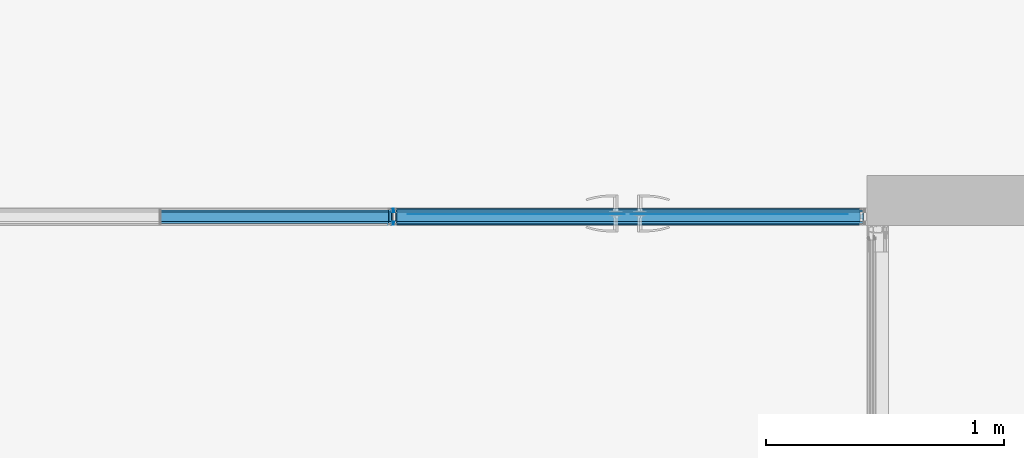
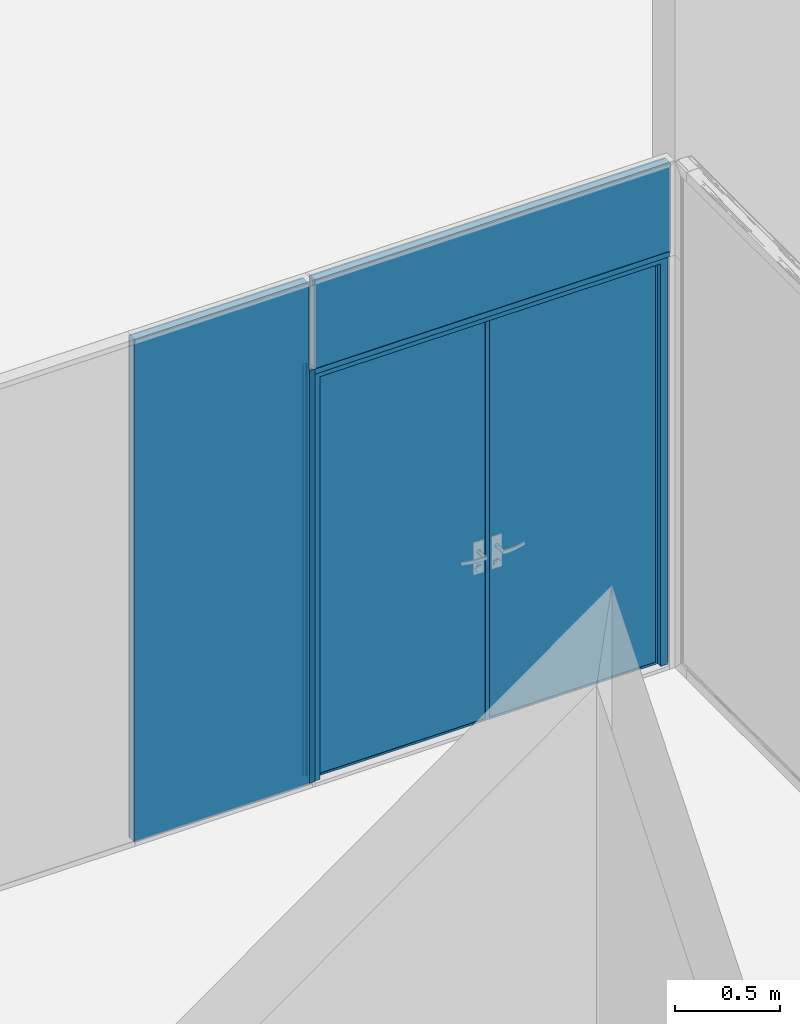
# One storey, part 48 of 62: 10 building element parts, 6 elements without a shape of their own.
"""IFC2X3 building model written with IfcOpenShell, lengths in millimetres."""

import ifcopenshell
import ifcopenshell.guid

model = None  # the IFC model being written
_history = None  # IfcOwnerHistory: only IFC2X3 demands one
_inside = {}  # id of a spatial element -> (the spatial element, [elements in it])
_under = {}  # id of a project, library or spatial element -> (it, [spatial elements below it])
_declared = {}  # id of a project -> (the project, [libraries it declares])
_typed = {}  # id of a type object -> (the type object, [elements of that type])
_made_of = {}  # id of a material, layer set ... -> (it, [elements and type objects made of it])


def new_model(schema):
    """Start an empty IFC model of exactly this schema.

    Asked for "IFC4X3", IfcOpenShell would pick the latest addendum, in which some entities
    have other attributes; the version numbers below select the first issue.
    IFC2X3 requires an IfcOwnerHistory on every rooted entity: one is made here for all.
    """
    global model, _history
    if schema == "IFC4X3":
        model = ifcopenshell.file(schema_version=(4, 3, 0, 0))
    else:
        model = ifcopenshell.file(schema=schema)
    _inside.clear()
    _under.clear()
    _declared.clear()
    _typed.clear()
    _made_of.clear()
    _history = None
    if model.schema == "IFC2X3":
        org = make("IfcOrganization", Name="unknown")
        user = make(
            "IfcPersonAndOrganization",
            ThePerson=make("IfcPerson", FamilyName="unknown"),
            TheOrganization=org,
        )
        app = make(
            "IfcApplication",
            ApplicationDeveloper=org,
            Version="unknown",
            ApplicationFullName="unknown",
            ApplicationIdentifier="unknown",
        )
        _history = make(
            "IfcOwnerHistory",
            OwningUser=user,
            OwningApplication=app,
            ChangeAction="ADDED",
            CreationDate=0,
        )
    return model


def make(cls, **values):
    """One entity of the class cls with the attributes given. An attribute that is None is left unset."""
    return model.create_entity(
        cls, **{name: value for name, value in values.items() if value is not None}
    )


def entity(cls, *values):
    """Any entity or typed value of the class cls, its attributes in the order of the schema. None: left unset."""
    e = model.create_entity(cls)
    for i, value in enumerate(values):
        if value is not None:
            e[i] = value
    return e


def rooted(cls, **values):
    """An entity with a GlobalId (a new one), such as an element, a storey or a relation."""
    return make(cls, GlobalId=ifcopenshell.guid.new(), OwnerHistory=_history, **values)


def si_unit(unit_type, name, prefix=None):
    """IfcSIUnit, for example si_unit("LENGTHUNIT", "METRE", prefix="MILLI")."""
    return make("IfcSIUnit", UnitType=unit_type, Prefix=prefix, Name=name)


def converted_unit(unit_type, name, factor, base, dimensions=None, offset=None):
    """IfcConversionBasedUnit, such as the inch: factor (a typed value) times the base unit."""
    return make(
        "IfcConversionBasedUnit"
        if offset is None
        else "IfcConversionBasedUnitWithOffset",
        ConversionOffset=offset,
        Dimensions=None
        if dimensions is None
        else entity("IfcDimensionalExponents", *dimensions),
        UnitType=unit_type,
        Name=name,
        ConversionFactor=make(
            "IfcMeasureWithUnit", ValueComponent=factor, UnitComponent=base
        ),
    )


def derived_unit(unit_type, elements):
    """IfcDerivedUnit: a product of units, each with its exponent."""
    return make(
        "IfcDerivedUnit",
        Elements=[
            make("IfcDerivedUnitElement", Unit=unit, Exponent=power)
            for unit, power in elements
        ],
        UnitType=unit_type,
    )


def money_unit(currency):
    """IfcMonetaryUnit."""
    return make("IfcMonetaryUnit", Currency=currency)


def assignment(units):
    """IfcUnitAssignment: the units of a project."""
    return None if units is None else make("IfcUnitAssignment", Units=units)


def point(xyz):
    """IfcCartesianPoint."""
    return None if xyz is None else make("IfcCartesianPoint", Coordinates=xyz)


def direction(xyz):
    """IfcDirection."""
    return None if xyz is None else make("IfcDirection", DirectionRatios=xyz)


def frame(location, z_axis=None, x_axis=None):
    """IfcAxis2Placement3D, a coordinate frame: its origin and axes. An axis left out is left unset."""
    return make(
        "IfcAxis2Placement3D",
        Location=point(location),
        Axis=direction(z_axis),
        RefDirection=direction(x_axis),
    )


def origin_with_axes():
    """The frame at (0, 0, 0) with the z axis (0, 0, 1) and the x axis (1, 0, 0) written out."""
    return frame((0.0, 0.0, 0.0), z_axis=(0.0, 0.0, 1.0), x_axis=(1.0, 0.0, 0.0))


def place(relative_to, where):
    """IfcLocalPlacement: puts the frame where relative to a parent placement (None: the world)."""
    return make(
        "IfcLocalPlacement", PlacementRelTo=relative_to, RelativePlacement=where
    )


def context(
    kind, dimensions, precision=None, world=None, true_north=None, identifier=None
):
    """IfcGeometricRepresentationContext, for example the 3D "Model" context."""
    return make(
        "IfcGeometricRepresentationContext",
        ContextIdentifier=identifier,
        ContextType=kind,
        CoordinateSpaceDimension=dimensions,
        Precision=precision,
        WorldCoordinateSystem=world,
        TrueNorth=true_north,
    )


def subcontext(parent, identifier, kind, view, scale=None):
    """IfcGeometricRepresentationSubContext, for example "Body" below "Model"."""
    return make(
        "IfcGeometricRepresentationSubContext",
        ContextIdentifier=identifier,
        ContextType=kind,
        ParentContext=parent,
        TargetScale=scale,
        TargetView=view,
    )


def project(units=None, contexts=None):
    """IfcProject with its units and contexts."""
    return rooted(
        "IfcProject",
        Name="project",
        RepresentationContexts=contexts,
        UnitsInContext=assignment(units),
    )


def spatial(cls, under=None, at=None, **own):
    """A site, building, storey or space (cls), placed at a placement, below another one or the project."""
    s = rooted(cls, ObjectPlacement=at, **own)
    if under is not None:
        _under.setdefault(under.id(), (under, []))[1].append(s)
    return s


def faces_of(points, faces, orient=None, outer=None):
    """IfcFace entities. A face is a list of loops; a loop is a list of indices into points, from 0.

    orient and outer hold one flag for each loop. By default every Orientation is true, the
    first loop of a face is its IfcFaceOuterBound and the others are IfcFaceBound.
    """
    made = []
    for i, loops in enumerate(faces):
        bounds = []
        for j, loop in enumerate(loops):
            is_outer = j == 0 if outer is None else outer[i][j]
            bounds.append(
                make(
                    "IfcFaceOuterBound" if is_outer else "IfcFaceBound",
                    Bound=make("IfcPolyLoop", Polygon=[points[k] for k in loop]),
                    Orientation=True if orient is None else orient[i][j],
                )
            )
        made.append(make("IfcFace", Bounds=bounds))
    return made


def open_shell(faces, orient=None, outer=None):
    """The faces of one IfcOpenShell. surface_model builds it on its shared points."""
    return ("IfcOpenShell", faces, orient, outer)


def faceted_brep(points, faces, orient=None, outer=None, voids=None):
    """IfcFacetedBrep: a solid bounded by flat faces; with voids (closed shells), ...WithVoids."""
    shared = [point(p) for p in points]
    hull = make("IfcClosedShell", CfsFaces=faces_of(shared, faces, orient, outer))
    if voids is None:
        return make("IfcFacetedBrep", Outer=hull)
    return make(
        "IfcFacetedBrepWithVoids",
        Outer=hull,
        Voids=[
            make(cls, CfsFaces=faces_of(shared, fs, o, b)) for cls, fs, o, b in voids
        ],
    )


def surface_model(cls, points, shells):
    """IfcFaceBasedSurfaceModel or IfcShellBasedSurfaceModel (cls): surfaces that need not close."""
    shared = [point(p) for p in points]
    made = [make(c, CfsFaces=faces_of(shared, fs, o, b)) for c, fs, o, b in shells]
    if cls == "IfcFaceBasedSurfaceModel":
        return make(cls, FbsmFaces=made)
    return make(cls, SbsmBoundary=made)


def shape(context_of_items, identifier, shape_type, items):
    """IfcShapeRepresentation: the items that make up one representation, for example the "Body"."""
    return make(
        "IfcShapeRepresentation",
        ContextOfItems=context_of_items,
        RepresentationIdentifier=identifier,
        RepresentationType=shape_type,
        Items=items,
    )


def material(Name=None, Category=None):
    """IfcMaterial."""
    return make("IfcMaterial", Name=Name, Category=Category)


def made_of(thing, what):
    """Note that an element or type object is made of a material, layer set ...; save() writes the relation."""
    if what is not None:
        _made_of.setdefault(what.id(), (what, []))[1].append(thing)
    return thing


def type_object(cls, material=None, **own):
    """A type object (cls), such as IfcWallType, which elements share."""
    return made_of(rooted(cls, **own), material)


def element(
    cls,
    number,
    at=None,
    inside=None,
    cuts=None,
    type_object=None,
    material=None,
    context=None,
    identifier="Body",
    shape_type=None,
    held_by="IfcProductDefinitionShape",
    body=None,
    shapes=None,
    **own,
):
    """One element of the class cls, such as IfcWall. Its Tag is "e" and its number.

    at: its placement. inside: the storey or other place that contains it. cuts: it is an
    opening in that element (IfcRelVoidsElement). A single representation is given by context,
    identifier, shape_type and body (its items); several are given by shapes. held_by: the class
    of the entity that holds the representations. save() writes the other relations.
    """
    e = rooted(cls, Tag="e%d" % number, ObjectPlacement=at, **own)
    if body is not None:
        shapes = [shape(context, identifier, shape_type, body)]
    if shapes is not None:
        e.Representation = make(held_by, Representations=shapes)
    if inside is not None:
        _inside.setdefault(inside.id(), (inside, []))[1].append(e)
    if cuts is not None:
        rooted(
            "IfcRelVoidsElement", RelatingBuildingElement=cuts, RelatedOpeningElement=e
        )
    if type_object is not None:
        _typed.setdefault(type_object.id(), (type_object, []))[1].append(e)
    return made_of(e, material)


def aggregate(whole, parts):
    """IfcRelAggregates: a whole, such as a stair, and the parts it consists of."""
    return rooted("IfcRelAggregates", RelatingObject=whole, RelatedObjects=parts)


def save(model, path):
    """Write the relations noted so far, then the file.

    IfcRelAggregates (storeys below a building ...), IfcRelContainedInSpatialStructure (elements
    in a storey), IfcRelDefinesByType, IfcRelAssociatesMaterial and IfcRelDeclares: one each for
    every whole, place, type object, material and project.
    """
    for whole, parts in _under.values():
        aggregate(whole, parts)
    for where, things in _inside.values():
        rooted(
            "IfcRelContainedInSpatialStructure",
            RelatedElements=things,
            RelatingStructure=where,
        )
    for kind, things in _typed.values():
        rooted("IfcRelDefinesByType", RelatedObjects=things, RelatingType=kind)
    for what, things in _made_of.values():
        rooted("IfcRelAssociatesMaterial", RelatedObjects=things, RelatingMaterial=what)
    for by, libraries in _declared.values():
        rooted("IfcRelDeclares", RelatingContext=by, RelatedDefinitions=libraries)
    model.write(path)


model = new_model("IFC2X3")

# Units and contexts
model_context = context("Model", 3, precision=0.01, world=origin_with_axes(), true_north=direction((0.0, 1.0)))
body_context = subcontext(model_context, "Body", "Model", "MODEL_VIEW")
ifc_project = project(units=[si_unit("LENGTHUNIT", "METRE", prefix="MILLI"), si_unit("AREAUNIT", "SQUARE_METRE"), si_unit("VOLUMEUNIT", "CUBIC_METRE"), converted_unit("PLANEANGLEUNIT", "DEGREE", entity("IfcPlaneAngleMeasure", 0.0174532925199), si_unit("PLANEANGLEUNIT", "RADIAN"), dimensions=[0, 0, 0, 0, 0, 0, 0]), si_unit("SOLIDANGLEUNIT", "STERADIAN"), money_unit("EUR"), converted_unit("TIMEUNIT", "Year", entity("IfcTimeMeasure", 31556926.0), si_unit("TIMEUNIT", "SECOND"), dimensions=[0, 0, 1, 0, 0, 0, 0]), si_unit("MASSUNIT", "GRAM", prefix="KILO"), si_unit("THERMODYNAMICTEMPERATUREUNIT", "DEGREE_CELSIUS"), si_unit("LUMINOUSINTENSITYUNIT", "LUMEN"), si_unit("ENERGYUNIT", "JOULE", prefix="MEGA"), derived_unit("THERMALCONDUCTANCEUNIT", [(si_unit("POWERUNIT", "WATT"), 1), (si_unit("LENGTHUNIT", "METRE"), -1), (si_unit("THERMODYNAMICTEMPERATUREUNIT", "KELVIN"), -1)]), derived_unit("SPECIFICHEATCAPACITYUNIT", [(si_unit("ENERGYUNIT", "JOULE"), 1), (si_unit("MASSUNIT", "GRAM", prefix="KILO"), -1), (si_unit("THERMODYNAMICTEMPERATUREUNIT", "KELVIN"), -1)]), derived_unit("MASSDENSITYUNIT", [(si_unit("MASSUNIT", "GRAM", prefix="KILO"), 1), (si_unit("VOLUMEUNIT", "CUBIC_METRE"), -1)])], contexts=[model_context])

# Site, building, storey
site_placement = place(None, origin_with_axes())
site = spatial("IfcSite", under=ifc_project, at=site_placement, Name="Puškini 31, Narva", CompositionType="ELEMENT")
building_placement = place(site_placement, origin_with_axes())
building = spatial("IfcBuilding", under=site, at=building_placement, Name="Narva Riigigümnaasium", CompositionType="ELEMENT")
storey_placement = place(building_placement, frame((0.0, 0.0, 660.0), z_axis=(0.0, 0.0, 1.0), x_axis=(1.0, 0.0, 0.0)))
storey = spatial("IfcBuildingStorey", under=building, at=storey_placement, Name="2.korrus +0.66", CompositionType="ELEMENT", Elevation=660.0)

# Curtain wall, plates, building element parts, door, members
curtain_wall_type = type_object("IfcCurtainWallType", Name="Curtain Wall Type", PredefinedType="NOTDEFINED")
curtain_wall_placement = place(storey_placement, frame((45089.2571373, 223837.000216, -1.99739158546e-06), z_axis=(0.0, 0.0, 1.0), x_axis=(1.0, 0.0, 0.0)))
curtain_wall = element("IfcCurtainWall", 1, at=curtain_wall_placement, inside=storey, type_object=curtain_wall_type, Name="G-SKLF-52")
plate_type_1 = type_object("IfcPlateType", Name="958 x 505 x 10", PredefinedType="CURTAIN_PANEL")
plate_1_placement = place(curtain_wall_placement, frame((0.0, 0.0, 1875.71426167), z_axis=(0.0, 0.0, 1.0), x_axis=(1.0, 0.0, 0.0)))
plate_1 = element("IfcPlate", 2, at=plate_1_placement, type_object=plate_type_1, Name="G-SKLF-52-klaas", ObjectType="CURTAIN_PANEL")
ifc_material_1 = material(Name="VKR-05_Klaas")
building_element_part_1_placement = place(plate_1_placement, origin_with_axes())
building_element_part_1 = element("IfcBuildingElementPart", 3, at=building_element_part_1_placement, material=ifc_material_1, Name="VKR-05_Klaas", context=body_context, shape_type="Brep", body=[
    faceted_brep([(-556.557123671, -28.9999999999, 1059.28568986), (401.542843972, -28.9999999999, 1059.28568986), (401.542843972, -20.0, 1059.28568986), (-556.557123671, -20.0, 1059.28568986), (-556.557123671, -28.9999999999, -1860.71427015), (418.5428578, -28.9999999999, -1860.71427015), (418.5428578, -28.9999999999, 554.285682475), (401.542843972, -28.9999999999, 554.285682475), (401.542843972, -20.0, 554.285682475), (418.5428578, -20.0, 554.285682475), (418.5428578, -20.0, -1860.71427015), (-556.557123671, -20.0, -1860.71427015)], [[[0, 1, 2, 3]], [[0, 4, 5, 6, 7, 1]], [[1, 7, 8, 2]], [[3, 2, 8, 9, 10, 11]], [[4, 0, 3, 11]], [[5, 4, 11, 10]], [[6, 5, 10, 9]], [[7, 6, 9, 8]]]),
    faceted_brep([(-556.557123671, 20.0000000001, 1059.28568986), (401.542843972, 20.0000000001, 1059.28568986), (401.542843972, 29.0000000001, 1059.28568986), (-556.557123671, 29.0000000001, 1059.28568986), (-556.557123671, 20.0000000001, -1860.71427015), (418.5428578, 20.0000000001, -1860.71427015), (418.5428578, 20.0000000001, 554.285682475), (401.542843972, 20.0000000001, 554.285682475), (401.542843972, 29.0000000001, 554.285682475), (418.5428578, 29.0000000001, 554.285682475), (418.5428578, 29.0000000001, -1860.71427015), (-556.557123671, 29.0000000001, -1860.71427015)], [[[0, 1, 2, 3]], [[0, 4, 5, 6, 7, 1]], [[1, 7, 8, 2]], [[3, 2, 8, 9, 10, 11]], [[4, 0, 3, 11]], [[5, 4, 11, 10]], [[6, 5, 10, 9]], [[7, 6, 9, 8]]]),
])
ifc_material_2 = material(Name="VKR-06_Õhkvahe")
building_element_part_2_placement = place(plate_1_placement, origin_with_axes())
building_element_part_2 = element("IfcBuildingElementPart", 4, at=building_element_part_2_placement, material=ifc_material_2, Name="VKR-06_Õhkvahe", context=body_context, shape_type="Brep", body=[
    faceted_brep([(-556.557123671, -20.0, 1059.28568986), (401.542843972, -20.0, 1059.28568986), (401.542843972, 20.0000000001, 1059.28568986), (-556.557123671, 20.0000000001, 1059.28568986), (-556.557123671, -20.0, -1860.71427015), (418.5428578, -20.0, -1860.71427015), (418.5428578, -20.0, 554.285682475), (401.542843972, -20.0, 554.285682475), (401.542843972, 20.0000000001, 554.285682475), (418.5428578, 20.0000000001, 554.285682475), (418.5428578, 20.0000000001, -1860.71427015), (-556.557123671, 20.0000000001, -1860.71427015)], [[[0, 1, 2, 3]], [[0, 4, 5, 6, 7, 1]], [[1, 7, 8, 2]], [[3, 2, 8, 9, 10, 11]], [[4, 0, 3, 11]], [[5, 4, 11, 10]], [[6, 5, 10, 9]], [[7, 6, 9, 8]]]),
])
aggregate(plate_1, [building_element_part_1, building_element_part_2])
door_style = type_object("IfcDoorStyle", Name="1949 x 2365 x 20", ConstructionType="NOTDEFINED", OperationType="NOTDEFINED", ParameterTakesPrecedence=False, Sizeable=False)
door_placement = place(curtain_wall_placement, frame((1421.14285627, 0.0, 1200.0), z_axis=(0.0, 0.0, 1.0), x_axis=(1.0, 0.0, 0.0)))
door = element("IfcDoor", 5, at=door_placement, type_object=door_style, Name="G-SKLF-52-U1", ObjectType="DOOR")
ifc_material_3 = material(Name="ET-04_Alumiinium")
building_element_part_3_placement = place(door_placement, origin_with_axes())
building_element_part_3 = element("IfcBuildingElementPart", 6, at=building_element_part_3_placement, material=ifc_material_3, Name="ET-04_Alumiinium", context=body_context, shape_type="Brep", body=[
    faceted_brep([(-989.599985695, 20.0, -1180.0), (-989.599985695, 20.0, 1200.0), (-989.599985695, 34.0, 1200.0), (-989.599985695, 34.0, -1180.0), (-943.599985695, 20.0, -1180.0), (-943.599985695, 20.0, 1154.0), (-943.599985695, 34.0, 1154.0), (-943.599985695, 34.0, -1180.0)], [[[0, 1, 2, 3]], [[0, 4, 5, 1]], [[1, 5, 6, 2]], [[3, 2, 6, 7]], [[4, 0, 3, 7]], [[5, 4, 7, 6]]]),
    faceted_brep([(959.599964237, 20.0, 1200.0), (913.599964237, 20.0, 1154.0), (913.599964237, 34.0, 1154.0), (959.599964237, 34.0, 1200.0), (-989.599985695, 20.0, 1200.0), (-943.599985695, 20.0, 1154.0), (-943.599985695, 34.0, 1154.0), (-989.599985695, 34.0, 1200.0)], [[[0, 1, 2, 3]], [[0, 4, 5, 1]], [[1, 5, 6, 2]], [[3, 2, 6, 7]], [[4, 0, 3, 7]], [[5, 4, 7, 6]]]),
    faceted_brep([(959.599964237, 20.0, -1180.0), (913.599964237, 20.0, -1180.0), (913.599964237, 34.0, -1180.0), (959.599964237, 34.0, -1180.0), (959.599964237, 20.0, 1200.0), (913.599964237, 20.0, 1154.0), (913.599964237, 34.0, 1154.0), (959.599964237, 34.0, 1200.0)], [[[0, 1, 2, 3]], [[0, 4, 5, 1]], [[1, 5, 6, 2]], [[3, 2, 6, 7]], [[4, 0, 3, 7]], [[5, 4, 7, 6]]]),
    faceted_brep([(-989.599985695, -20.0, -1180.0), (-989.599985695, -20.0, 1200.0), (-989.599985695, 20.0, 1200.0), (-989.599985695, 20.0, -1180.0), (-951.599985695, -20.0, -1180.0), (-951.599985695, -20.0, 1162.0), (-951.599985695, 20.0, 1162.0), (-951.599985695, 20.0, -1180.0)], [[[0, 1, 2, 3]], [[0, 4, 5, 1]], [[1, 5, 6, 2]], [[3, 2, 6, 7]], [[4, 0, 3, 7]], [[5, 4, 7, 6]]]),
    faceted_brep([(959.599964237, -20.0, 1200.0), (921.599964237, -20.0, 1162.0), (921.599964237, 20.0, 1162.0), (959.599964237, 20.0, 1200.0), (-989.599985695, -20.0, 1200.0), (-951.599985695, -20.0, 1162.0), (-951.599985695, 20.0, 1162.0), (-989.599985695, 20.0, 1200.0)], [[[0, 1, 2, 3]], [[0, 4, 5, 1]], [[1, 5, 6, 2]], [[3, 2, 6, 7]], [[4, 0, 3, 7]], [[5, 4, 7, 6]]]),
    faceted_brep([(959.599964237, -20.0, -1180.0), (921.599964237, -20.0, -1180.0), (921.599964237, 20.0, -1180.0), (959.599964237, 20.0, -1180.0), (959.599964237, -20.0, 1200.0), (921.599964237, -20.0, 1162.0), (921.599964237, 20.0, 1162.0), (959.599964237, 20.0, 1200.0)], [[[0, 1, 2, 3]], [[0, 4, 5, 1]], [[1, 5, 6, 2]], [[3, 2, 6, 7]], [[4, 0, 3, 7]], [[5, 4, 7, 6]]]),
    faceted_brep([(-989.599985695, -9.99999999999, -1180.0), (-989.599985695, -9.99999999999, 1200.0), (-989.599985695, 9.99999999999, 1200.0), (-989.599985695, 9.99999999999, -1180.0), (-974.599985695, -9.99999999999, -1180.0), (-974.599985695, -9.99999999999, 1185.0), (-974.599985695, 9.99999999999, 1185.0), (-974.599985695, 9.99999999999, -1180.0)], [[[0, 1, 2, 3]], [[0, 4, 5, 1]], [[1, 5, 6, 2]], [[3, 2, 6, 7]], [[4, 0, 3, 7]], [[5, 4, 7, 6]]]),
    faceted_brep([(-989.599985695, -9.99999999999, 1200.0), (959.599964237, -9.99999999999, 1200.0), (959.599964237, 9.99999999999, 1200.0), (-989.599985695, 9.99999999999, 1200.0), (-974.599985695, -9.99999999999, 1185.0), (974.6, -9.99999999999, 1185.0), (974.6, 9.99999999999, 1185.0), (-974.599985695, 9.99999999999, 1185.0)], [[[0, 1, 2, 3]], [[0, 4, 5, 1]], [[1, 5, 6, 2]], [[3, 2, 6, 7]], [[4, 0, 3, 7]], [[5, 4, 7, 6]]]),
    faceted_brep([(974.6, -9.99999999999, 1185.0), (974.6, -9.99999999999, -1180.0), (974.6, 9.99999999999, -1180.0), (974.6, 9.99999999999, 1185.0), (959.599964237, -9.99999999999, 1200.0), (959.599964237, -9.99999999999, -1180.0), (959.599964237, 9.99999999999, -1180.0), (959.599964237, 9.99999999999, 1200.0)], [[[0, 1, 2, 3]], [[0, 4, 5, 1]], [[1, 5, 6, 2]], [[3, 2, 6, 7]], [[4, 0, 3, 7]], [[5, 4, 7, 6]]]),
    faceted_brep([(909.599964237, 20.0, -1168.0), (909.599964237, 8.00000000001, -1168.0), (909.599964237, 8.00000000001, 1150.0), (909.599964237, 20.0, 1150.0), (921.599964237, 20.0, -1180.0), (921.599964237, 8.00000000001, -1180.0), (921.599964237, 8.00000000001, 1162.0), (921.599964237, 20.0, 1162.0)], [[[0, 1, 2, 3]], [[4, 5, 1, 0]], [[1, 5, 6, 2]], [[3, 2, 6, 7]], [[0, 3, 7, 4]], [[7, 6, 5, 4]]]),
    faceted_brep([(-15.0000107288, 20.0, -1180.0), (-15.0000107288, 8.00000000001, -1180.0), (-15.0000107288, 8.00000000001, 1162.0), (-15.0000107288, 20.0, 1162.0), (-3.00001072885, 20.0, -1168.0), (-3.00001072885, 8.00000000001, -1168.0), (-3.00001072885, 8.00000000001, 1150.0), (-3.00001072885, 20.0, 1150.0)], [[[0, 1, 2, 3]], [[4, 5, 1, 0]], [[1, 5, 6, 2]], [[3, 2, 6, 7]], [[0, 3, 7, 4]], [[7, 6, 5, 4]]]),
    faceted_brep([(-15.0000107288, 20.0, -1180.0), (-15.0000107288, 8.00000000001, -1180.0), (-3.00001072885, 8.00000000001, -1168.0), (-3.00001072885, 20.0, -1168.0), (921.599964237, 20.0, -1180.0), (921.599964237, 8.00000000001, -1180.0), (909.599964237, 8.00000000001, -1168.0), (909.599964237, 20.0, -1168.0)], [[[0, 1, 2, 3]], [[4, 5, 1, 0]], [[1, 5, 6, 2]], [[3, 2, 6, 7]], [[0, 3, 7, 4]], [[7, 6, 5, 4]]]),
    faceted_brep([(921.599964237, 20.0, 1162.0), (921.599964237, 8.00000000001, 1162.0), (909.599964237, 8.00000000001, 1150.0), (909.599964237, 20.0, 1150.0), (-15.0000107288, 20.0, 1162.0), (-15.0000107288, 8.00000000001, 1162.0), (-3.00001072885, 8.00000000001, 1150.0), (-3.00001072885, 20.0, 1150.0)], [[[0, 1, 2, 3]], [[4, 5, 1, 0]], [[1, 5, 6, 2]], [[3, 2, 6, 7]], [[0, 3, 7, 4]], [[7, 6, 5, 4]]]),
    faceted_brep([(-27.0000107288, 20.0, -1168.0), (-27.0000107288, 8.00000000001, -1168.0), (-27.0000107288, 8.00000000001, 1150.0), (-27.0000107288, 20.0, 1150.0), (-15.0000107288, 20.0, -1180.0), (-15.0000107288, 8.00000000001, -1180.0), (-15.0000107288, 8.00000000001, 1162.0), (-15.0000107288, 20.0, 1162.0)], [[[0, 1, 2, 3]], [[4, 5, 1, 0]], [[1, 5, 6, 2]], [[3, 2, 6, 7]], [[0, 3, 7, 4]], [[7, 6, 5, 4]]]),
    faceted_brep([(-951.599985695, 20.0, -1180.0), (-951.599985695, 8.00000000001, -1180.0), (-951.599985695, 8.00000000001, 1162.0), (-951.599985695, 20.0, 1162.0), (-939.599985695, 20.0, -1168.0), (-939.599985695, 8.00000000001, -1168.0), (-939.599985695, 8.00000000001, 1150.0), (-939.599985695, 20.0, 1150.0)], [[[0, 1, 2, 3]], [[4, 5, 1, 0]], [[1, 5, 6, 2]], [[3, 2, 6, 7]], [[0, 3, 7, 4]], [[7, 6, 5, 4]]]),
    faceted_brep([(-951.599985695, 20.0, -1180.0), (-951.599985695, 8.00000000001, -1180.0), (-939.599985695, 8.00000000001, -1168.0), (-939.599985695, 20.0, -1168.0), (-15.0000107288, 20.0, -1180.0), (-15.0000107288, 8.00000000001, -1180.0), (-27.0000107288, 8.00000000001, -1168.0), (-27.0000107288, 20.0, -1168.0)], [[[0, 1, 2, 3]], [[4, 5, 1, 0]], [[1, 5, 6, 2]], [[3, 2, 6, 7]], [[0, 3, 7, 4]], [[7, 6, 5, 4]]]),
    faceted_brep([(-15.0000107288, 20.0, 1162.0), (-15.0000107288, 8.00000000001, 1162.0), (-27.0000107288, 8.00000000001, 1150.0), (-27.0000107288, 20.0, 1150.0), (-951.599985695, 20.0, 1162.0), (-951.599985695, 8.00000000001, 1162.0), (-939.599985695, 8.00000000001, 1150.0), (-939.599985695, 20.0, 1150.0)], [[[0, 1, 2, 3]], [[4, 5, 1, 0]], [[1, 5, 6, 2]], [[3, 2, 6, 7]], [[0, 3, 7, 4]], [[7, 6, 5, 4]]]),
])
building_element_part_4_placement = place(door_placement, origin_with_axes())
building_element_part_4 = element("IfcBuildingElementPart", 7, at=building_element_part_4_placement, material=ifc_material_1, Name="VKR-05_Klaas", context=body_context, shape_type="SurfaceModel", body=[
    surface_model("IfcShellBasedSurfaceModel", [(909.599964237, 9.99999999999, -1168.0), (-3.00001072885, 9.99999999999, -1168.0), (-3.00001072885, 9.99999999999, 1150.0), (909.599964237, 9.99999999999, 1150.0)], [open_shell([[[0, 1, 2, 3]]])]),
    surface_model("IfcShellBasedSurfaceModel", [(-27.0000107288, 9.99999999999, -1168.0), (-939.599985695, 9.99999999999, -1168.0), (-939.599985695, 9.99999999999, 1150.0), (-27.0000107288, 9.99999999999, 1150.0)], [open_shell([[[0, 1, 2, 3]]])]),
])
aggregate(door, [building_element_part_3, building_element_part_4])
plate_type_2 = type_object("IfcPlateType", Name="1960 x 520 x 10", PredefinedType="CURTAIN_PANEL")
plate_2_placement = place(curtain_wall_placement, frame((865.587301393, 0.0, 2053.3333083), z_axis=(0.0, 0.0, 1.0), x_axis=(1.0, 0.0, 0.0)))
plate_2 = element("IfcPlate", 8, at=plate_2_placement, type_object=plate_type_2, Name="G-SKLF-52-klaas", ObjectType="CURTAIN_PANEL")
building_element_part_5_placement = place(plate_2_placement, origin_with_axes())
building_element_part_5 = element("IfcBuildingElementPart", 9, at=building_element_part_5_placement, material=ifc_material_1, Name="VKR-05_Klaas", context=body_context, shape_type="Brep", body=[
    faceted_brep([(-430.044432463, -28.9999999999, 881.666629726), (1530.15557312, -28.9999999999, 881.666629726), (1530.15557312, -20.0, 881.666629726), (-430.044432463, -20.0, 881.666629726), (-430.044432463, -28.9999999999, 376.666630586), (-447.044427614, -28.9999999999, 376.666630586), (-447.0444573, -28.9999999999, 361.666678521), (1530.15557312, -28.9999999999, 361.666678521), (1530.15557312, -20.0, 361.666678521), (-447.0444573, -20.0, 361.666678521), (-447.044427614, -20.0, 376.666630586), (-430.044432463, -20.0, 376.666630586)], [[[0, 1, 2, 3]], [[0, 4, 5, 6, 7, 1]], [[1, 7, 8, 2]], [[3, 2, 8, 9, 10, 11]], [[4, 0, 3, 11]], [[5, 4, 11, 10]], [[6, 5, 10, 9]], [[7, 6, 9, 8]]]),
    faceted_brep([(-430.044432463, 20.0000000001, 881.666629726), (1530.15557312, 20.0000000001, 881.666629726), (1530.15557312, 29.0000000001, 881.666629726), (-430.044432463, 29.0000000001, 881.666629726), (-430.044432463, 20.0000000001, 376.666630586), (-447.044427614, 20.0000000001, 376.666630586), (-447.0444573, 20.0000000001, 361.666678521), (1530.15557312, 20.0000000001, 361.666678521), (1530.15557312, 29.0000000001, 361.666678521), (-447.0444573, 29.0000000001, 361.666678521), (-447.044427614, 29.0000000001, 376.666630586), (-430.044432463, 29.0000000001, 376.666630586)], [[[0, 1, 2, 3]], [[0, 4, 5, 6, 7, 1]], [[1, 7, 8, 2]], [[3, 2, 8, 9, 10, 11]], [[4, 0, 3, 11]], [[5, 4, 11, 10]], [[6, 5, 10, 9]], [[7, 6, 9, 8]]]),
])
building_element_part_6_placement = place(plate_2_placement, origin_with_axes())
building_element_part_6 = element("IfcBuildingElementPart", 10, at=building_element_part_6_placement, material=ifc_material_2, Name="VKR-06_Õhkvahe", context=body_context, shape_type="Brep", body=[
    faceted_brep([(-430.044432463, -20.0, 881.666629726), (1530.15557312, -20.0, 881.666629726), (1530.15557312, 20.0000000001, 881.666629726), (-430.044432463, 20.0000000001, 881.666629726), (-430.044432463, -20.0, 376.666630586), (-447.044427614, -20.0, 376.666630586), (-447.0444573, -20.0, 361.666678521), (1530.15557312, -20.0, 361.666678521), (1530.15557312, 20.0000000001, 361.666678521), (-447.0444573, 20.0000000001, 361.666678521), (-447.044427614, 20.0000000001, 376.666630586), (-430.044432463, 20.0000000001, 376.666630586)], [[[0, 1, 2, 3]], [[0, 4, 5, 6, 7, 1]], [[1, 7, 8, 2]], [[3, 2, 8, 9, 10, 11]], [[4, 0, 3, 11]], [[5, 4, 11, 10]], [[6, 5, 10, 9]], [[7, 6, 9, 8]]]),
])
aggregate(plate_2, [building_element_part_5, building_element_part_6])
member_type_1 = type_object("IfcMemberType", Name="30 x -27", PredefinedType="MULLION")
member_1_placement = place(curtain_wall_placement, frame((431.542856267, 0.0, 0.0), z_axis=(0.0, 0.0, 1.0), x_axis=(1.0, 0.0, 0.0)))
member_1 = element("IfcMember", 11, at=member_1_placement, type_object=member_type_1, Name="G-SKLF-52-raam", ObjectType="MULLION")
ifc_material_4 = material(Name="Klaasvill")
building_element_part_7_placement = place(member_1_placement, origin_with_axes())
building_element_part_7 = element("IfcBuildingElementPart", 12, at=building_element_part_7_placement, material=ifc_material_4, Name="Klaasvill", context=body_context, shape_type="Brep", body=[
    faceted_brep([(-7.49999990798, 20.000000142, 30.0000193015), (-7.49999990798, 20.000000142, 2430.0000193), (-13.8499999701, 20.000000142, 2430.0000193), (-13.8499999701, 20.000000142, 30.0000193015), (-7.49999990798, 34.0161444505, 30.0000193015), (-7.49999990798, 34.0161444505, 2430.0000193), (-13.8499999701, 34.0161444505, 2430.0000193), (-13.8499999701, 34.0161444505, 30.0000193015)], [[[0, 1, 2, 3]], [[4, 5, 1, 0]], [[2, 1, 5, 6]], [[3, 2, 6, 7]], [[3, 7, 4, 0]], [[7, 6, 5, 4]]]),
    faceted_brep([(-28.7655837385, 33.0385325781, 30.0000193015), (-28.7655837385, 33.0385325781, 2430.0000193), (-24.987414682, 34.0161444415, 2430.0000193), (-24.987414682, 34.0161444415, 30.0000193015), (-28.4955493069, 32.0307503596, 30.0000193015), (-28.4955493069, 32.0307503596, 2430.0000193), (-27.75780152, 31.2930025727, 2430.0000193), (-26.7500193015, 31.0229681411, 2430.0000193), (-25.742237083, 31.2930025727, 2430.0000193), (-25.004489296, 32.0307503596, 2430.0000193), (-24.7344548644, 33.0385325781, 2430.0000193), (-24.7344548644, 33.0385325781, 30.0000193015), (-25.004489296, 32.0307503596, 30.0000193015), (-25.742237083, 31.2930025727, 30.0000193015), (-26.7500193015, 31.0229681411, 30.0000193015), (-27.75780152, 31.2930025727, 30.0000193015)], [[[0, 1, 2, 3]], [[4, 5, 1, 0]], [[2, 1, 5, 6, 7, 8, 9, 10]], [[3, 2, 10, 11]], [[3, 11, 12, 13, 14, 15, 4, 0]], [[15, 6, 5, 4]], [[14, 7, 6, 15]], [[13, 8, 7, 14]], [[12, 9, 8, 13]], [[11, 10, 9, 12]]]),
    faceted_brep([(-13.8499999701, -34.0161445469, 30.0000193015), (-13.8499999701, -34.0161445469, 2430.0000193), (-13.8499999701, -19.9999997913, 2430.0000193), (-13.8499999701, -19.9999997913, 30.0000193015), (-7.49999990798, -34.0161445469, 30.0000193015), (-7.49999990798, -34.0161445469, 2430.0000193), (-7.49999990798, -19.9999997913, 2430.0000193), (-7.49999990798, -19.9999997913, 30.0000193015)], [[[0, 1, 2, 3]], [[4, 5, 1, 0]], [[2, 1, 5, 6]], [[3, 2, 6, 7]], [[3, 7, 4, 0]], [[7, 6, 5, 4]]]),
    faceted_brep([(-25.004489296, -32.0307503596, 30.0000193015), (-25.004489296, -32.0307503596, 2430.0000193), (-24.987414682, -34.0161444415, 2430.0000193), (-24.987414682, -34.0161444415, 30.0000193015), (-25.742237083, -31.2930025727, 30.0000193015), (-25.742237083, -31.2930025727, 2430.0000193), (-26.7500193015, -31.0229681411, 2430.0000193), (-27.75780152, -31.2930025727, 2430.0000193), (-28.4955493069, -32.0307503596, 2430.0000193), (-28.7655837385, -33.0385325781, 2430.0000193), (-28.5126239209, -34.0161444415, 2430.0000193), (-28.5126239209, -34.0161444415, 30.0000193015), (-28.7655837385, -33.0385325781, 30.0000193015), (-28.4955493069, -32.0307503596, 30.0000193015), (-27.75780152, -31.2930025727, 30.0000193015), (-26.7500193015, -31.0229681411, 30.0000193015)], [[[0, 1, 2, 3]], [[4, 5, 1, 0]], [[2, 1, 5, 6, 7, 8, 9, 10]], [[3, 2, 10, 11]], [[3, 11, 12, 13, 14, 15, 4, 0]], [[15, 6, 5, 4]], [[14, 7, 6, 15]], [[13, 8, 7, 14]], [[12, 9, 8, 13]], [[11, 10, 9, 12]]]),
])
ifc_material_5 = material(Name="Teras RAL7012")
building_element_part_8_placement = place(member_1_placement, origin_with_axes())
building_element_part_8 = element("IfcBuildingElementPart", 13, at=building_element_part_8_placement, material=ifc_material_5, Name="Teras RAL7012", context=body_context, shape_type="Brep", body=[
    faceted_brep([(-29.6000001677, -17.0000000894, 30.0000193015), (-29.6000001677, -17.0000000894, 2430.0000193), (-29.6000001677, 17.0000000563, 2430.0000193), (-29.6000001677, 17.0000000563, 30.0000193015), (3.28335792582e-07, -17.0000000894, 30.0000193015), (3.28335792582e-07, -17.0000000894, 2430.0000193), (3.28335792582e-07, 17.0000000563, 2430.0000193), (-1.99999958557, -15.0000001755, 2430.0000193), (-18.8000001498, -15.0000001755, 2430.0000193), (-18.8000001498, 15.0000001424, 2430.0000193), (-1.99999958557, 15.0000001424, 2430.0000193), (3.28335792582e-07, 17.0000000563, 30.0000193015), (-1.99999958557, -15.0000001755, 30.0000193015), (-1.99999958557, 15.0000001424, 30.0000193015), (-18.8000001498, 15.0000001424, 30.0000193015), (-18.8000001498, -15.0000001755, 30.0000193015)], [[[0, 1, 2, 3]], [[4, 5, 1, 0]], [[2, 1, 5, 6], [7, 8, 9, 10]], [[3, 2, 6, 11]], [[3, 11, 4, 0], [12, 13, 14, 15]], [[11, 6, 5, 4]], [[15, 8, 7, 12]], [[14, 9, 8, 15]], [[13, 10, 9, 14]], [[12, 7, 10, 13]]]),
    faceted_brep([(0.0, 37.0, 30.0000193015), (0.0, 37.0, 2430.0000193), (0.0, 17.0, 2430.0000193), (0.0, 17.0, 30.0000193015), (-30.0000193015, 37.0, 30.0000193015), (-30.0000193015, 37.0, 2430.0000193), (-30.0000193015, 34.0161444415, 2430.0000193), (-28.5126239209, 34.0161444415, 2430.0000193), (-24.987414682, 34.0161444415, 2430.0000193), (-13.8499999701, 34.0161444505, 2430.0000193), (-7.49999999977, 34.0161444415, 2430.0000193), (-7.49999999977, 20.0, 2430.0000193), (-13.8499999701, 20.000000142, 2430.0000193), (-30.0000193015, 20.0, 2430.0000193), (-30.0000193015, 17.0, 2430.0000193), (-29.6000001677, 17.0000000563, 2430.0000193), (-29.6000001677, 17.0000000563, 30.0000193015), (-30.0000193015, 17.0, 30.0000193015), (-30.0000193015, 20.0, 30.0000193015), (-13.8499999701, 20.000000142, 30.0000193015), (-7.49999999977, 20.0, 30.0000193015), (-7.49999999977, 34.0161444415, 30.0000193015), (-13.8499999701, 34.0161444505, 30.0000193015), (-24.987414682, 34.0161444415, 30.0000193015), (-28.5126239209, 34.0161444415, 30.0000193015), (-30.0000193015, 34.0161444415, 30.0000193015)], [[[0, 1, 2, 3]], [[4, 5, 1, 0]], [[2, 1, 5, 6, 7, 8, 9, 10, 11, 12, 13, 14, 15]], [[3, 2, 15, 16]], [[3, 16, 17, 18, 19, 20, 21, 22, 23, 24, 25, 4, 0]], [[25, 6, 5, 4]], [[24, 7, 6, 25]], [[23, 8, 7, 24]], [[22, 9, 8, 23]], [[21, 10, 9, 22]], [[20, 11, 10, 21]], [[19, 12, 11, 20]], [[18, 13, 12, 19]], [[17, 14, 13, 18]], [[16, 15, 14, 17]]]),
    faceted_brep([(-29.6000001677, -17.0000000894, 30.0000193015), (-29.6000001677, -17.0000000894, 2430.0000193), (0.0, -17.0, 2430.0000193), (0.0, -17.0, 30.0000193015), (-30.0000193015, -17.0, 30.0000193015), (-30.0000193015, -17.0, 2430.0000193), (-30.0000193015, -20.0, 2430.0000193), (-13.8499999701, -19.9999997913, 2430.0000193), (-7.49999999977, -20.0, 2430.0000193), (-7.49999999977, -34.0161444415, 2430.0000193), (-13.8499999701, -34.0161445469, 2430.0000193), (-24.987414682, -34.0161444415, 2430.0000193), (-28.5126239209, -34.0161444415, 2430.0000193), (-30.0000193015, -34.0161444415, 2430.0000193), (-30.0000193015, -37.0, 2430.0000193), (0.0, -37.0, 2430.0000193), (0.0, -37.0, 30.0000193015), (-30.0000193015, -37.0, 30.0000193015), (-30.0000193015, -34.0161444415, 30.0000193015), (-28.5126239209, -34.0161444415, 30.0000193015), (-24.987414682, -34.0161444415, 30.0000193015), (-13.8499999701, -34.0161445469, 30.0000193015), (-7.49999999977, -34.0161444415, 30.0000193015), (-7.49999999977, -20.0, 30.0000193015), (-13.8499999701, -19.9999997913, 30.0000193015), (-30.0000193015, -20.0, 30.0000193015)], [[[0, 1, 2, 3]], [[4, 5, 1, 0]], [[2, 1, 5, 6, 7, 8, 9, 10, 11, 12, 13, 14, 15]], [[3, 2, 15, 16]], [[3, 16, 17, 18, 19, 20, 21, 22, 23, 24, 25, 4, 0]], [[25, 6, 5, 4]], [[24, 7, 6, 25]], [[23, 8, 7, 24]], [[22, 9, 8, 23]], [[21, 10, 9, 22]], [[20, 11, 10, 21]], [[19, 12, 11, 20]], [[18, 13, 12, 19]], [[17, 14, 13, 18]], [[16, 15, 14, 17]]]),
])
aggregate(member_1, [building_element_part_7, building_element_part_8])
member_type_2 = type_object("IfcMemberType", Name="30 x 27", PredefinedType="MULLION")
member_2_placement = place(curtain_wall_placement, frame((2410.74285627, 0.0, 2400.0), z_axis=(-1.0, 0.0, 0.0), x_axis=(0.0, 0.0, 1.0)))
member_2 = element("IfcMember", 14, at=member_2_placement, type_object=member_type_2, Name="G-SKLF-52-raam", ObjectType="MULLION")
aggregate(curtain_wall, [door, member_1, member_2, plate_1, plate_2])
building_element_part_9_placement = place(member_2_placement, origin_with_axes())
building_element_part_9 = element("IfcBuildingElementPart", 15, at=building_element_part_9_placement, material=ifc_material_4, Name="Klaasvill", context=body_context, shape_type="Brep", body=[
    faceted_brep([(13.8499999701, 20.000000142, 30.0000193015), (13.8499999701, 20.000000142, 1979.2), (7.49999990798, 20.000000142, 1979.2), (7.49999990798, 20.000000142, 30.0000193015), (13.8499999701, 34.0161444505, 30.0000193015), (13.8499999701, 34.0161444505, 1979.2), (7.49999990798, 34.0161444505, 1979.2), (7.49999990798, 34.0161444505, 30.0000193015)], [[[0, 1, 2, 3]], [[4, 5, 1, 0]], [[2, 1, 5, 6]], [[3, 2, 6, 7]], [[3, 7, 4, 0]], [[7, 6, 5, 4]]]),
    faceted_brep([(25.004489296, 32.0307503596, 30.0000193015), (25.004489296, 32.0307503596, 1979.2), (24.987414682, 34.0161444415, 1979.2), (24.987414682, 34.0161444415, 30.0000193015), (25.742237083, 31.2930025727, 30.0000193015), (25.742237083, 31.2930025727, 1979.2), (26.7500193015, 31.0229681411, 1979.2), (27.75780152, 31.2930025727, 1979.2), (28.4955493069, 32.0307503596, 1979.2), (28.7655837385, 33.0385325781, 1979.2), (28.5126239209, 34.0161444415, 1979.2), (28.5126239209, 34.0161444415, 30.0000193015), (28.7655837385, 33.0385325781, 30.0000193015), (28.4955493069, 32.0307503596, 30.0000193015), (27.75780152, 31.2930025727, 30.0000193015), (26.7500193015, 31.0229681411, 30.0000193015)], [[[0, 1, 2, 3]], [[4, 5, 1, 0]], [[2, 1, 5, 6, 7, 8, 9, 10]], [[3, 2, 10, 11]], [[3, 11, 12, 13, 14, 15, 4, 0]], [[15, 6, 5, 4]], [[14, 7, 6, 15]], [[13, 8, 7, 14]], [[12, 9, 8, 13]], [[11, 10, 9, 12]]]),
    faceted_brep([(7.49999990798, -34.0161445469, 30.0000193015), (7.49999990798, -34.0161445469, 1979.2), (7.49999990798, -19.9999997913, 1979.2), (7.49999990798, -19.9999997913, 30.0000193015), (13.8499999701, -34.0161445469, 30.0000193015), (13.8499999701, -34.0161445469, 1979.2), (13.8499999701, -19.9999997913, 1979.2), (13.8499999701, -19.9999997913, 30.0000193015)], [[[0, 1, 2, 3]], [[4, 5, 1, 0]], [[2, 1, 5, 6]], [[3, 2, 6, 7]], [[3, 7, 4, 0]], [[7, 6, 5, 4]]]),
    faceted_brep([(24.987414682, -34.0161444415, 30.0000193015), (24.987414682, -34.0161444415, 1979.2), (25.004489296, -32.0307503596, 1979.2), (25.004489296, -32.0307503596, 30.0000193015), (28.5126239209, -34.0161444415, 30.0000193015), (28.5126239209, -34.0161444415, 1979.2), (28.7655837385, -33.0385325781, 1979.2), (28.4955493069, -32.0307503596, 1979.2), (27.75780152, -31.2930025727, 1979.2), (26.7500193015, -31.0229681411, 1979.2), (25.742237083, -31.2930025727, 1979.2), (25.742237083, -31.2930025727, 30.0000193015), (26.7500193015, -31.0229681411, 30.0000193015), (27.75780152, -31.2930025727, 30.0000193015), (28.4955493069, -32.0307503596, 30.0000193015), (28.7655837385, -33.0385325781, 30.0000193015)], [[[0, 1, 2, 3]], [[4, 5, 1, 0]], [[2, 1, 5, 6, 7, 8, 9, 10]], [[3, 2, 10, 11]], [[3, 11, 12, 13, 14, 15, 4, 0]], [[15, 6, 5, 4]], [[14, 7, 6, 15]], [[13, 8, 7, 14]], [[12, 9, 8, 13]], [[11, 10, 9, 12]]]),
])
building_element_part_10_placement = place(member_2_placement, origin_with_axes())
building_element_part_10 = element("IfcBuildingElementPart", 16, at=building_element_part_10_placement, material=ifc_material_5, Name="Teras RAL7012", context=body_context, shape_type="Brep", body=[
    faceted_brep([(29.5999996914, -17.0000000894, 30.0000193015), (29.5999996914, -17.0000000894, 1979.2), (0.0, -17.0000000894, 1979.2), (0.0, -17.0000000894, 30.0000193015), (29.5999996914, 17.0000000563, 30.0000193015), (29.5999996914, 17.0000000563, 1979.2), (0.0, 17.0000000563, 1979.2), (1.9999999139, 15.0000001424, 1979.2), (18.7999996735, 15.0000001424, 1979.2), (18.7999996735, -15.0000001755, 1979.2), (1.9999999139, -15.0000001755, 1979.2), (0.0, 17.0000000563, 30.0000193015), (1.9999999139, 15.0000001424, 30.0000193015), (1.9999999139, -15.0000001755, 30.0000193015), (18.7999996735, -15.0000001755, 30.0000193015), (18.7999996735, 15.0000001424, 30.0000193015)], [[[0, 1, 2, 3]], [[4, 5, 1, 0]], [[2, 1, 5, 6], [7, 8, 9, 10]], [[3, 2, 6, 11]], [[3, 11, 4, 0], [12, 13, 14, 15]], [[11, 6, 5, 4]], [[15, 8, 7, 12]], [[14, 9, 8, 15]], [[13, 10, 9, 14]], [[12, 7, 10, 13]]]),
    faceted_brep([(29.5999996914, 17.0000000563, 30.0000193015), (29.5999996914, 17.0000000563, 1979.2), (0.0, 17.0, 1979.2), (0.0, 17.0, 30.0000193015), (30.0000193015, 17.0, 30.0000193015), (30.0000193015, 17.0, 1979.2), (30.0000193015, 20.0, 1979.2), (13.8499999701, 20.000000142, 1979.2), (7.49999999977, 20.0, 1979.2), (7.49999999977, 34.0161444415, 1979.2), (13.8499999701, 34.0161444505, 1979.2), (24.987414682, 34.0161444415, 1979.2), (28.5126239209, 34.0161444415, 1979.2), (30.0000193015, 34.0161444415, 1979.2), (30.0000193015, 37.0, 1979.2), (0.0, 37.0, 1979.2), (0.0, 37.0, 30.0000193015), (30.0000193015, 37.0, 30.0000193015), (30.0000193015, 34.0161444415, 30.0000193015), (28.5126239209, 34.0161444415, 30.0000193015), (24.987414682, 34.0161444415, 30.0000193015), (13.8499999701, 34.0161444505, 30.0000193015), (7.49999999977, 34.0161444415, 30.0000193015), (7.49999999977, 20.0, 30.0000193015), (13.8499999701, 20.000000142, 30.0000193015), (30.0000193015, 20.0, 30.0000193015)], [[[0, 1, 2, 3]], [[4, 5, 1, 0]], [[2, 1, 5, 6, 7, 8, 9, 10, 11, 12, 13, 14, 15]], [[3, 2, 15, 16]], [[3, 16, 17, 18, 19, 20, 21, 22, 23, 24, 25, 4, 0]], [[25, 6, 5, 4]], [[24, 7, 6, 25]], [[23, 8, 7, 24]], [[22, 9, 8, 23]], [[21, 10, 9, 22]], [[20, 11, 10, 21]], [[19, 12, 11, 20]], [[18, 13, 12, 19]], [[17, 14, 13, 18]], [[16, 15, 14, 17]]]),
    faceted_brep([(0.0, -37.0, 30.0000193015), (0.0, -37.0, 1979.2), (0.0, -17.0, 1979.2), (0.0, -17.0, 30.0000193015), (30.0000193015, -37.0, 30.0000193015), (30.0000193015, -37.0, 1979.2), (30.0000193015, -34.0161444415, 1979.2), (28.5126239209, -34.0161444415, 1979.2), (24.987414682, -34.0161444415, 1979.2), (13.8499999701, -34.0161445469, 1979.2), (7.49999999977, -34.0161444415, 1979.2), (7.49999999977, -20.0, 1979.2), (13.8499999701, -19.9999997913, 1979.2), (30.0000193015, -20.0, 1979.2), (30.0000193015, -17.0, 1979.2), (29.5999996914, -17.0000000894, 1979.2), (29.5999996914, -17.0000000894, 30.0000193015), (30.0000193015, -17.0, 30.0000193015), (30.0000193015, -20.0, 30.0000193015), (13.8499999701, -19.9999997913, 30.0000193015), (7.49999999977, -20.0, 30.0000193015), (7.49999999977, -34.0161444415, 30.0000193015), (13.8499999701, -34.0161445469, 30.0000193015), (24.987414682, -34.0161444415, 30.0000193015), (28.5126239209, -34.0161444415, 30.0000193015), (30.0000193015, -34.0161444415, 30.0000193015)], [[[0, 1, 2, 3]], [[4, 5, 1, 0]], [[2, 1, 5, 6, 7, 8, 9, 10, 11, 12, 13, 14, 15]], [[3, 2, 15, 16]], [[3, 16, 17, 18, 19, 20, 21, 22, 23, 24, 25, 4, 0]], [[25, 6, 5, 4]], [[24, 7, 6, 25]], [[23, 8, 7, 24]], [[22, 9, 8, 23]], [[21, 10, 9, 22]], [[20, 11, 10, 21]], [[19, 12, 11, 20]], [[18, 13, 12, 19]], [[17, 14, 13, 18]], [[16, 15, 14, 17]]]),
])
aggregate(member_2, [building_element_part_9, building_element_part_10])

save(model, "model.ifc")
